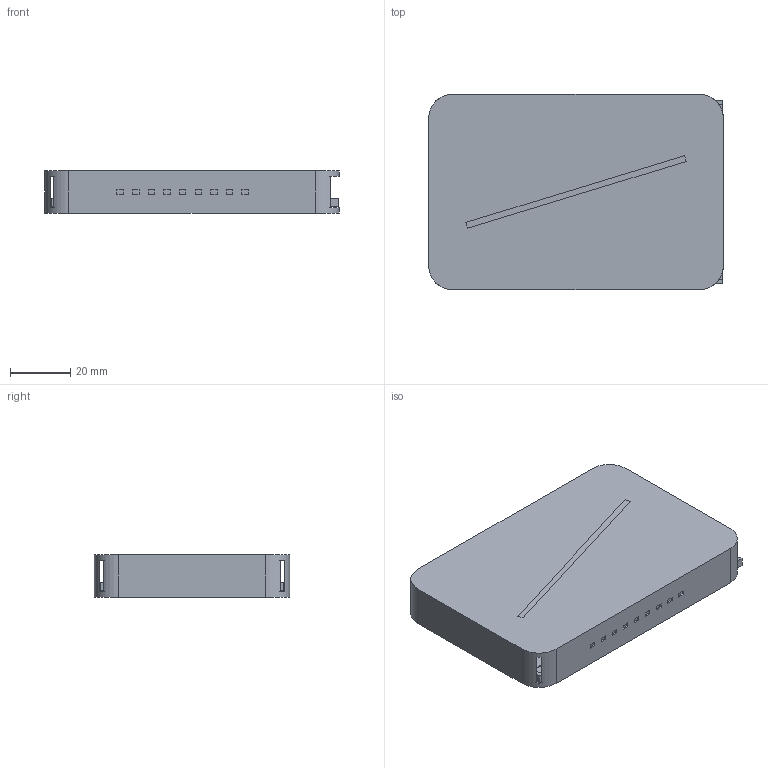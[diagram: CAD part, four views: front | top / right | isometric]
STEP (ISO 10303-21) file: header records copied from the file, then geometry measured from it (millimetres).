
FILE_DESCRIPTION(('FreeCAD Model'),'2;1');
FILE_NAME('Open CASCADE Shape Model','2026-10-01T09:14:23',('Author'),( ''),'Open CASCADE STEP processor 7.8','FreeCAD','Unknown');
FILE_SCHEMA(('AUTOMOTIVE_DESIGN { 1 0 10303 214 1 1 1 1 }'));
Length unit declared in the file: millimetre
Products named in the file (6): SuijianCardCase; Outer Shell — PC+ABS intent; Sliding Tray — PC+ABS intent; Lift Wedge — POM intent; 17 degree Accent — anodised aluminium intent; 90 × 54 mm Card Fit Proxy
Assembly tree (5 placements, depth 2):
  SuijianCardCase
    Outer Shell — PC+ABS intent
    Sliding Tray — PC+ABS intent
    Lift Wedge — POM intent
    17 degree Accent — anodised aluminium intent
    90 × 54 mm Card Fit Proxy
Bounding box: 98 x 65 x 14 mm (x, y, z)
Volume: 38955.9 mm3; surface area: 55575.8 mm2
Topology: 5 solids, 5 shells, 90 faces, 219 edges, 146 vertices
Faces by surface type: plane 85, cylinder 5
Entity records: 2701 total; most frequent: CARTESIAN_POINT 461, ORIENTED_EDGE 438, DIRECTION 429, EDGE_CURVE 219, LINE 201, VECTOR 201, VERTEX_POINT 146, AXIS2_PLACEMENT_3D 114
